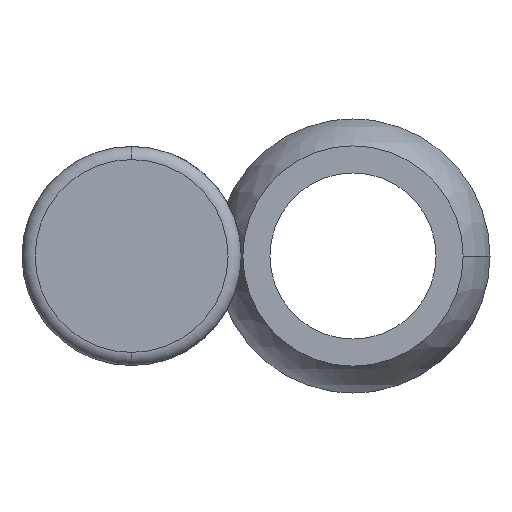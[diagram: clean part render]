
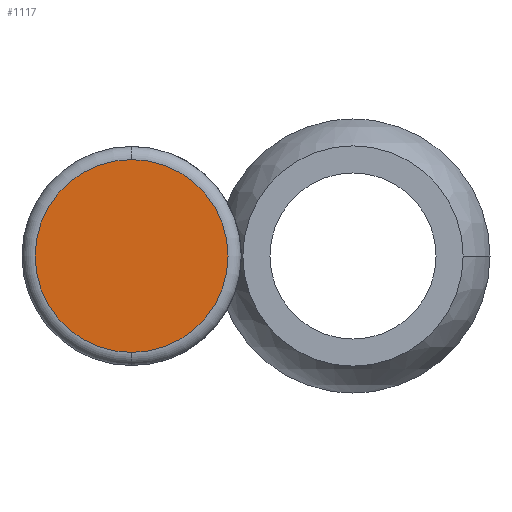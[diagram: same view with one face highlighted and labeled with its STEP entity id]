
A CAD part, front view. The second image highlights one B-rep face of the part: STEP entity #1117.
In plain terms, the highlighted planar face has unit normal (0, -1, 0).
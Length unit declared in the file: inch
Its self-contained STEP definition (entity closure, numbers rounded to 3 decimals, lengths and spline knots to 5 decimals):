
#34 = CIRCLE ( 'NONE', #179, 0.22 ) ;
#53 = ORIENTED_EDGE ( 'NONE', *, *, #784, .T. ) ;
#65 = DIRECTION ( 'NONE',  ( 0., -1., 0. ) ) ;
#172 = DIRECTION ( 'NONE',  ( 0., 0., 1. ) ) ;
#174 = EDGE_LOOP ( 'NONE', ( #53, #958 ) ) ;
#179 = AXIS2_PLACEMENT_3D ( 'NONE', #1089, #65, #172 ) ;
#203 = DIRECTION ( 'NONE',  ( 0., 1., 0. ) ) ;
#384 = PLANE ( 'NONE',  #489 ) ;
#401 = CARTESIAN_POINT ( 'NONE',  ( 0., -0.95, 0. ) ) ;
#417 = DIRECTION ( 'NONE',  ( 0., 0., 1. ) ) ;
#444 = VERTEX_POINT ( 'NONE', #809 ) ;
#489 = AXIS2_PLACEMENT_3D ( 'NONE', #401, #203, #855 ) ;
#609 = CARTESIAN_POINT ( 'NONE',  ( 0., -0.95, 0. ) ) ;
#712 = CIRCLE ( 'NONE', #927, 0.22 ) ;
#719 = EDGE_CURVE ( 'NONE', #444, #1055, #712, .T. ) ;
#741 = CARTESIAN_POINT ( 'NONE',  ( 0., -0.95, 0.22 ) ) ;
#784 = EDGE_CURVE ( 'NONE', #1055, #444, #34, .T. ) ;
#809 = CARTESIAN_POINT ( 'NONE',  ( 0., -0.95, -0.22 ) ) ;
#855 = DIRECTION ( 'NONE',  ( 0., 0., 1. ) ) ;
#888 = DIRECTION ( 'NONE',  ( 0., -1., 0. ) ) ;
#927 = AXIS2_PLACEMENT_3D ( 'NONE', #609, #888, #417 ) ;
#955 = FACE_OUTER_BOUND ( 'NONE', #174, .T. ) ;
#958 = ORIENTED_EDGE ( 'NONE', *, *, #719, .T. ) ;
#1055 = VERTEX_POINT ( 'NONE', #741 ) ;
#1089 = CARTESIAN_POINT ( 'NONE',  ( 0., -0.95, 0. ) ) ;
#1117 = ADVANCED_FACE ( 'NONE', ( #955 ), #384, .F. ) ;
